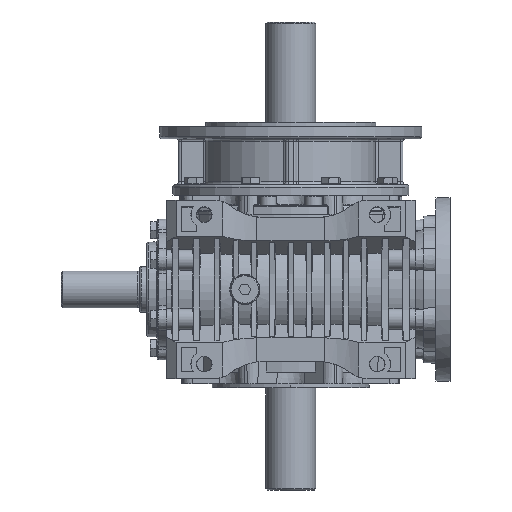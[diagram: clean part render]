
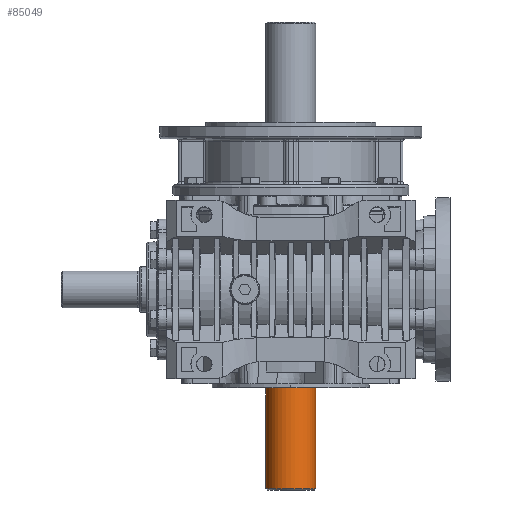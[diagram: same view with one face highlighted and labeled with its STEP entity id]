
A CAD part, front view. The second image highlights one B-rep face of the part: STEP entity #85049.
In plain terms, the highlighted cylindrical face has radius 19 mm (diameter 38 mm), a partial arc.
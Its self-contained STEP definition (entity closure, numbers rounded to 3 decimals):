
#1325 = EDGE_CURVE ( 'NONE', #109486, #26906, #19463, .T. ) ;
#4473 = CIRCLE ( 'NONE', #81367, 19. ) ;
#6905 = CIRCLE ( 'NONE', #87990, 19. ) ;
#8102 = CARTESIAN_POINT ( 'NONE',  ( 0., 0., -72.85 ) ) ;
#14771 = ORIENTED_EDGE ( 'NONE', *, *, #34474, .T. ) ;
#17714 = VECTOR ( 'NONE', #29875, 1000. ) ;
#19463 = LINE ( 'NONE', #99497, #17714 ) ;
#22735 = CARTESIAN_POINT ( 'NONE',  ( 19., 0., -152. ) ) ;
#26203 = CYLINDRICAL_SURFACE ( 'NONE', #100338, 19. ) ;
#26906 = VERTEX_POINT ( 'NONE', #90627 ) ;
#29056 = DIRECTION ( 'NONE',  ( -1., 0., 0. ) ) ;
#29875 = DIRECTION ( 'NONE',  ( 0., 0., 1. ) ) ;
#34474 = EDGE_CURVE ( 'NONE', #35061, #127815, #96488, .T. ) ;
#35061 = VERTEX_POINT ( 'NONE', #22735 ) ;
#36105 = DIRECTION ( 'NONE',  ( 0., 0., -1. ) ) ;
#38505 = FACE_OUTER_BOUND ( 'NONE', #54097, .T. ) ;
#45862 = ORIENTED_EDGE ( 'NONE', *, *, #111142, .T. ) ;
#54097 = EDGE_LOOP ( 'NONE', ( #95513, #71343, #14771, #45862 ) ) ;
#64464 = CARTESIAN_POINT ( 'NONE',  ( -19., 0., -152. ) ) ;
#70645 = DIRECTION ( 'NONE',  ( 0., 0., 1. ) ) ;
#71343 = ORIENTED_EDGE ( 'NONE', *, *, #95472, .T. ) ;
#72463 = CARTESIAN_POINT ( 'NONE',  ( 19., 0., -72.85 ) ) ;
#76935 = DIRECTION ( 'NONE',  ( 0., 0., 1. ) ) ;
#81367 = AXIS2_PLACEMENT_3D ( 'NONE', #90174, #70645, #29056 ) ;
#85049 = ADVANCED_FACE ( 'NONE', ( #38505 ), #26203, .T. ) ;
#87969 = DIRECTION ( 'NONE',  ( 0., 0., 1. ) ) ;
#87990 = AXIS2_PLACEMENT_3D ( 'NONE', #8102, #36105, #95340 ) ;
#90174 = CARTESIAN_POINT ( 'NONE',  ( 0., 0., -152. ) ) ;
#90627 = CARTESIAN_POINT ( 'NONE',  ( -19., 0., -72.85 ) ) ;
#95340 = DIRECTION ( 'NONE',  ( -1., 0., 0. ) ) ;
#95472 = EDGE_CURVE ( 'NONE', #109486, #35061, #4473, .T. ) ;
#95513 = ORIENTED_EDGE ( 'NONE', *, *, #1325, .F. ) ;
#96488 = LINE ( 'NONE', #126439, #116873 ) ;
#97748 = CARTESIAN_POINT ( 'NONE',  ( 0., 0., -153. ) ) ;
#99497 = CARTESIAN_POINT ( 'NONE',  ( -19., 0., -153. ) ) ;
#100338 = AXIS2_PLACEMENT_3D ( 'NONE', #97748, #87969, #117917 ) ;
#109486 = VERTEX_POINT ( 'NONE', #64464 ) ;
#111142 = EDGE_CURVE ( 'NONE', #127815, #26906, #6905, .T. ) ;
#116873 = VECTOR ( 'NONE', #76935, 1000. ) ;
#117917 = DIRECTION ( 'NONE',  ( 1., 0., 0. ) ) ;
#126439 = CARTESIAN_POINT ( 'NONE',  ( 19., 0., -153. ) ) ;
#127815 = VERTEX_POINT ( 'NONE', #72463 ) ;
